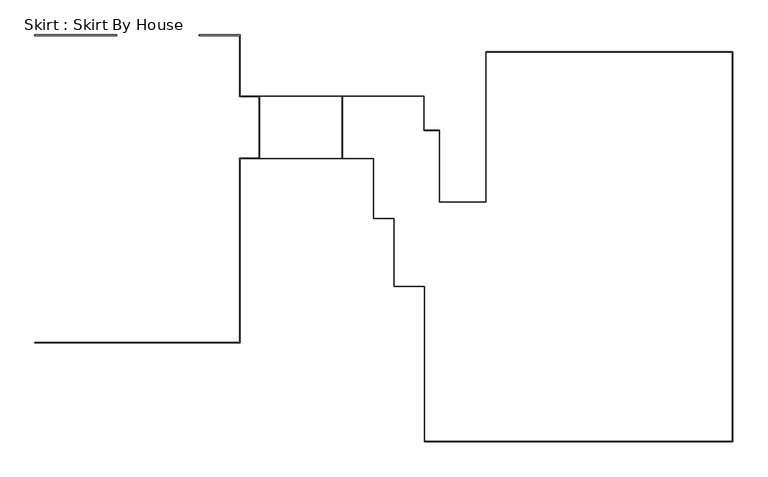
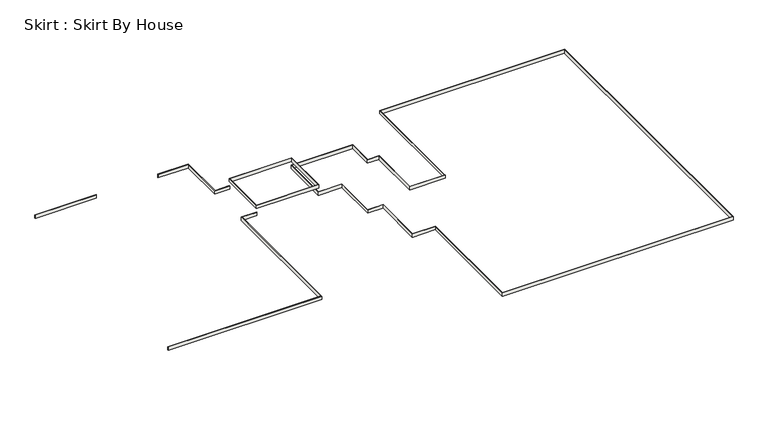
"""IFC4 building model written with IfcOpenShell, lengths in millimetres: slab geometry, Skirt : Skirt By House."""

import ifcopenshell
import ifcopenshell.guid

model = None  # the IFC model being written
_history = None  # IfcOwnerHistory: only IFC2X3 demands one
_inside = {}  # id of a spatial element -> (the spatial element, [elements in it])
_under = {}  # id of a project, library or spatial element -> (it, [spatial elements below it])
_declared = {}  # id of a project -> (the project, [libraries it declares])
_typed = {}  # id of a type object -> (the type object, [elements of that type])
_made_of = {}  # id of a material, layer set ... -> (it, [elements and type objects made of it])


def new_model(schema):
    """Start an empty IFC model of exactly this schema.

    Asked for "IFC4X3", IfcOpenShell would pick the latest addendum, in which some entities
    have other attributes; the version numbers below select the first issue.
    IFC2X3 requires an IfcOwnerHistory on every rooted entity: one is made here for all.
    """
    global model, _history
    if schema == "IFC4X3":
        model = ifcopenshell.file(schema_version=(4, 3, 0, 0))
    else:
        model = ifcopenshell.file(schema=schema)
    _inside.clear()
    _under.clear()
    _declared.clear()
    _typed.clear()
    _made_of.clear()
    _history = None
    if model.schema == "IFC2X3":
        org = make("IfcOrganization", Name="unknown")
        user = make(
            "IfcPersonAndOrganization",
            ThePerson=make("IfcPerson", FamilyName="unknown"),
            TheOrganization=org,
        )
        app = make(
            "IfcApplication",
            ApplicationDeveloper=org,
            Version="unknown",
            ApplicationFullName="unknown",
            ApplicationIdentifier="unknown",
        )
        _history = make(
            "IfcOwnerHistory",
            OwningUser=user,
            OwningApplication=app,
            ChangeAction="ADDED",
            CreationDate=0,
        )
    return model


def make(cls, **values):
    """One entity of the class cls with the attributes given. An attribute that is None is left unset."""
    return model.create_entity(
        cls, **{name: value for name, value in values.items() if value is not None}
    )


def rooted(cls, **values):
    """An entity with a GlobalId (a new one), such as an element, a storey or a relation."""
    return make(cls, GlobalId=ifcopenshell.guid.new(), OwnerHistory=_history, **values)


def si_unit(unit_type, name, prefix=None):
    """IfcSIUnit, for example si_unit("LENGTHUNIT", "METRE", prefix="MILLI")."""
    return make("IfcSIUnit", UnitType=unit_type, Prefix=prefix, Name=name)


def assignment(units):
    """IfcUnitAssignment: the units of a project."""
    return None if units is None else make("IfcUnitAssignment", Units=units)


def point(xyz):
    """IfcCartesianPoint."""
    return None if xyz is None else make("IfcCartesianPoint", Coordinates=xyz)


def direction(xyz):
    """IfcDirection."""
    return None if xyz is None else make("IfcDirection", DirectionRatios=xyz)


def frame(location, z_axis=None, x_axis=None):
    """IfcAxis2Placement3D, a coordinate frame: its origin and axes. An axis left out is left unset."""
    return make(
        "IfcAxis2Placement3D",
        Location=point(location),
        Axis=direction(z_axis),
        RefDirection=direction(x_axis),
    )


def origin():
    """The frame at (0, 0, 0) with its axes left unset."""
    return frame((0.0, 0.0, 0.0))


def place(relative_to, where):
    """IfcLocalPlacement: puts the frame where relative to a parent placement (None: the world)."""
    return make(
        "IfcLocalPlacement", PlacementRelTo=relative_to, RelativePlacement=where
    )


def context(
    kind, dimensions, precision=None, world=None, true_north=None, identifier=None
):
    """IfcGeometricRepresentationContext, for example the 3D "Model" context."""
    return make(
        "IfcGeometricRepresentationContext",
        ContextIdentifier=identifier,
        ContextType=kind,
        CoordinateSpaceDimension=dimensions,
        Precision=precision,
        WorldCoordinateSystem=world,
        TrueNorth=true_north,
    )


def project(units=None, contexts=None):
    """IfcProject with its units and contexts."""
    return rooted(
        "IfcProject",
        Name="project",
        RepresentationContexts=contexts,
        UnitsInContext=assignment(units),
    )


def spatial(cls, under=None, at=None, **own):
    """A site, building, storey or space (cls), placed at a placement, below another one or the project."""
    s = rooted(cls, ObjectPlacement=at, **own)
    if under is not None:
        _under.setdefault(under.id(), (under, []))[1].append(s)
    return s


def polyline(points):
    """IfcPolyline through the points."""
    return make("IfcPolyline", Points=[point(p) for p in points])


def outline(outer, holes=None, kind="AREA"):
    """IfcArbitraryClosedProfileDef: a profile drawn as a closed curve; with holes, ...WithVoids."""
    if holes is None:
        return make("IfcArbitraryClosedProfileDef", ProfileType=kind, OuterCurve=outer)
    return make(
        "IfcArbitraryProfileDefWithVoids",
        ProfileType=kind,
        OuterCurve=outer,
        InnerCurves=holes,
    )


def extrude(swept, where, along, depth):
    """IfcExtrudedAreaSolid: the profile swept, set in the frame where, extruded along a direction by depth."""
    return make(
        "IfcExtrudedAreaSolid",
        SweptArea=swept,
        Position=where,
        ExtrudedDirection=direction(along),
        Depth=depth,
    )


def shape(context_of_items, identifier, shape_type, items):
    """IfcShapeRepresentation: the items that make up one representation, for example the "Body"."""
    return make(
        "IfcShapeRepresentation",
        ContextOfItems=context_of_items,
        RepresentationIdentifier=identifier,
        RepresentationType=shape_type,
        Items=items,
    )


def source(mapping_origin, context_of_items, identifier, shape_type, items):
    """IfcRepresentationMap: a shape defined once, which mapped items show again and again."""
    return make(
        "IfcRepresentationMap",
        MappingOrigin=mapping_origin,
        MappedRepresentation=shape(context_of_items, identifier, shape_type, items),
    )


def transform(
    local_origin,
    x_axis=None,
    y_axis=None,
    z_axis=None,
    scale=None,
    scale2=None,
    scale3=None,
    uniform=True,
):
    """IfcCartesianTransformationOperator3D, or its non-uniform kind. x_axis, y_axis, z_axis: its Axis1, 2, 3."""
    if uniform:
        return make(
            "IfcCartesianTransformationOperator3D",
            Axis1=direction(x_axis),
            Axis2=direction(y_axis),
            LocalOrigin=point(local_origin),
            Scale=scale,
            Axis3=direction(z_axis),
        )
    return make(
        "IfcCartesianTransformationOperator3DnonUniform",
        Axis1=direction(x_axis),
        Axis2=direction(y_axis),
        LocalOrigin=point(local_origin),
        Scale=scale,
        Axis3=direction(z_axis),
        Scale2=scale2,
        Scale3=scale3,
    )


def mapped(mapping_source, mapping_target):
    """IfcMappedItem: shows the shape of a source again, moved by a transform."""
    return make(
        "IfcMappedItem", MappingSource=mapping_source, MappingTarget=mapping_target
    )


def made_of(thing, what):
    """Note that an element or type object is made of a material, layer set ...; save() writes the relation."""
    if what is not None:
        _made_of.setdefault(what.id(), (what, []))[1].append(thing)
    return thing


def element(
    cls,
    number,
    at=None,
    inside=None,
    cuts=None,
    type_object=None,
    material=None,
    context=None,
    identifier="Body",
    shape_type=None,
    held_by="IfcProductDefinitionShape",
    body=None,
    shapes=None,
    **own,
):
    """One element of the class cls, such as IfcWall. Its Tag is "e" and its number.

    at: its placement. inside: the storey or other place that contains it. cuts: it is an
    opening in that element (IfcRelVoidsElement). A single representation is given by context,
    identifier, shape_type and body (its items); several are given by shapes. held_by: the class
    of the entity that holds the representations. save() writes the other relations.
    """
    e = rooted(cls, Tag="e%d" % number, ObjectPlacement=at, **own)
    if body is not None:
        shapes = [shape(context, identifier, shape_type, body)]
    if shapes is not None:
        e.Representation = make(held_by, Representations=shapes)
    if inside is not None:
        _inside.setdefault(inside.id(), (inside, []))[1].append(e)
    if cuts is not None:
        rooted(
            "IfcRelVoidsElement", RelatingBuildingElement=cuts, RelatedOpeningElement=e
        )
    if type_object is not None:
        _typed.setdefault(type_object.id(), (type_object, []))[1].append(e)
    return made_of(e, material)


def aggregate(whole, parts):
    """IfcRelAggregates: a whole, such as a stair, and the parts it consists of."""
    return rooted("IfcRelAggregates", RelatingObject=whole, RelatedObjects=parts)


def save(model, path):
    """Write the relations noted so far, then the file.

    IfcRelAggregates (storeys below a building ...), IfcRelContainedInSpatialStructure (elements
    in a storey), IfcRelDefinesByType, IfcRelAssociatesMaterial and IfcRelDeclares: one each for
    every whole, place, type object, material and project.
    """
    for whole, parts in _under.values():
        aggregate(whole, parts)
    for where, things in _inside.values():
        rooted(
            "IfcRelContainedInSpatialStructure",
            RelatedElements=things,
            RelatingStructure=where,
        )
    for kind, things in _typed.values():
        rooted("IfcRelDefinesByType", RelatedObjects=things, RelatingType=kind)
    for what, things in _made_of.values():
        rooted("IfcRelAssociatesMaterial", RelatedObjects=things, RelatingMaterial=what)
    for by, libraries in _declared.values():
        rooted("IfcRelDeclares", RelatingContext=by, RelatedDefinitions=libraries)
    model.write(path)


def skirt_skirt_by_house_99c711df(model_context):
    return source(origin(), model_context, "Body", "SweptSolid", [
        extrude(outline(polyline([(3320.4288706, -3005.3939898), (3320.4288706, -3024.4439898), (2729.8788706, -3024.4439898), (2729.8788706, -1195.6439898), (1531.9196943, -1195.6439898), (1531.9196943, -1176.5939898), (2748.9288706, -1176.5939898), (2748.9288706, -3005.3939898), (3320.4288706, -3005.3939898)])), frame((0.0, 0.0, -158.75), z_axis=(0.0, 0.0, 1.0), x_axis=(1.0, 0.0, 0.0)), (0.0, 0.0, 1.0), 139.7),
        extrude(outline(polyline([(5796.9288706, -3005.3939898), (5796.9288706, -4872.2939898), (3320.4288706, -4872.2939898), (3320.4288706, -3005.3939898), (5796.9288706, -3005.3939898)]), holes=[polyline([(3339.4788706, -3024.4439898), (3339.4788706, -4853.2439898), (5777.8788706, -4853.2439898), (5777.8788706, -3024.4439898), (3339.4788706, -3024.4439898)])]), frame((0.0, 0.0, 146.05), z_axis=(0.0, 0.0, 1.0), x_axis=(1.0, 0.0, 0.0)), (0.0, 0.0, 1.0), 139.7),
        extrude(outline(polyline([(6724.0288706, -6650.2939898), (6724.0288706, -4872.2939898), (5790.5788706, -4872.2939898), (5790.5788706, -3005.3939898), (8235.3288706, -3005.3939898), (8235.3288706, -4021.3939898), (8692.5288706, -4021.3939898), (8692.5288706, -6154.9939898), (10076.8288706, -6154.9939898), (10076.8288706, -1684.5939898), (17430.1288706, -1684.5939898), (17430.1288706, -13305.0939898), (8248.0288706, -13305.0939898), (8248.0288706, -8682.2939898), (7333.6288706, -8682.2939898), (7333.6288706, -6650.2939898), (6724.0288706, -6650.2939898)]), holes=[polyline([(5809.6288706, -3024.4439898), (5809.6288706, -4853.2439898), (6743.0788706, -4853.2439898), (6743.0788706, -6631.2439898), (7352.6788706, -6631.2439898), (7352.6788706, -8663.2439898), (8267.0788706, -8663.2439898), (8267.0788706, -13286.0439898), (17411.0788706, -13286.0439898), (17411.0788706, -1703.6439898), (10095.8788706, -1703.6439898), (10095.8788706, -6174.0439898), (8673.4788706, -6174.0439898), (8673.4788706, -4040.4439898), (8216.2788706, -4040.4439898), (8216.2788706, -3024.4439898), (5809.6288706, -3024.4439898)])]), frame((0.0, 0.0, -158.75), z_axis=(0.0, 0.0, 1.0), x_axis=(1.0, 0.0, 0.0)), (0.0, 0.0, 1.0), 139.7),
        extrude(outline(polyline([(-3366.1211294, -1195.6439898), (-3366.1211294, -1176.5939898), (-927.7211294, -1176.5939898), (-927.7211294, -1195.6439898), (-3366.1211294, -1195.6439898)])), frame((0.0, 0.0, -158.75), z_axis=(0.0, 0.0, 1.0), x_axis=(1.0, 0.0, 0.0)), (0.0, 0.0, 1.0), 139.7),
        extrude(outline(polyline([(-3366.1211294, -10358.6939898), (-3366.1211294, -10339.6439898), (2729.8788706, -10339.6439898), (2729.8788706, -4853.2439898), (3339.4788706, -4853.2439898), (3339.4788706, -4872.2939898), (2748.9288706, -4872.2939898), (2748.9288706, -10358.6939898), (-3366.1211294, -10358.6939898)])), frame((0.0, 0.0, -158.75), z_axis=(0.0, 0.0, 1.0), x_axis=(1.0, 0.0, 0.0)), (0.0, 0.0, 1.0), 139.7),
    ])


if __name__ == "__main__":
    model = new_model("IFC4")
    model_context = context("Model", 3, world=origin())
    ifc_project = project(units=[si_unit("LENGTHUNIT", "METRE", prefix="MILLI")], contexts=[model_context])
    site = spatial("IfcSite", under=ifc_project)
    building = spatial("IfcBuilding", under=site)
    placement = place(None, origin())
    skirt_skirt_by_house_shape = skirt_skirt_by_house_99c711df(model_context)
    element("IfcSlab", 1, ObjectType="Skirt : Skirt By House", at=placement, inside=building, context=model_context, shape_type="MappedRepresentation", body=[
        mapped(skirt_skirt_by_house_shape, transform((0.0, 0.0, 0.0), x_axis=(1.0, 0.0, 0.0), y_axis=(0.0, 1.0, 0.0), z_axis=(0.0, 0.0, 1.0))),
    ])
    save(model, "model.ifc")
